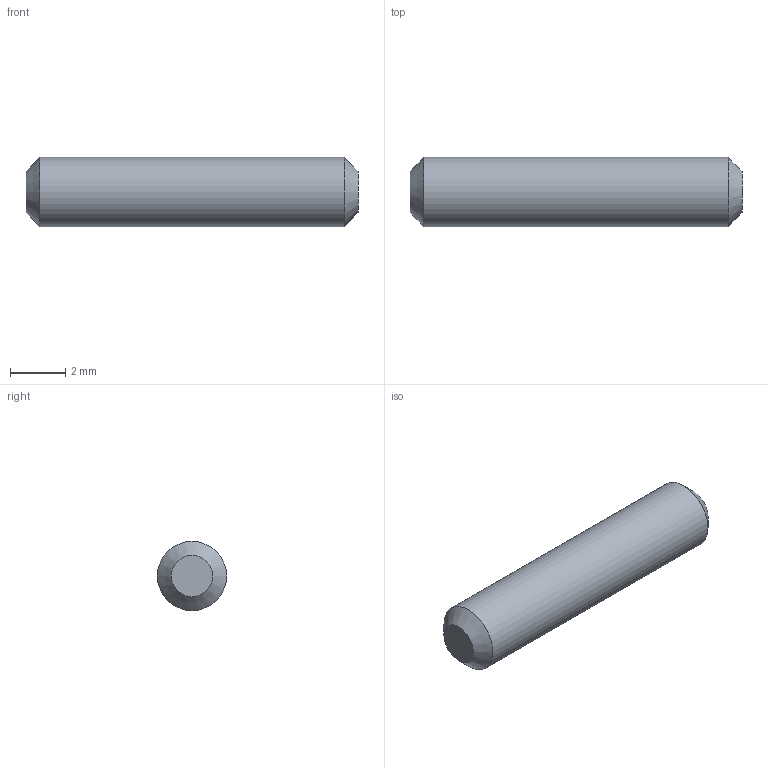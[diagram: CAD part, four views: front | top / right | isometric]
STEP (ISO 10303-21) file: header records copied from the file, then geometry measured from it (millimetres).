
FILE_DESCRIPTION(/* description */ (''),/* implementation_level */ '2;1');
FILE_NAME(/* name */ '',/* time_stamp */ '2025-02-05T13:55:50+09:00',/* author */ ('jhkim'),/* organization */ (''),/* preprocessor_version */ 'ST-DEVELOPER v20',/* originating_system */ 'Autodesk Inventor 2025',/* authorisation */ '');
FILE_SCHEMA (('AUTOMOTIVE_DESIGN { 1 0 10303 214 3 1 1 }'));
Length unit declared in the file: millimetre
Products named in the file (1): 고정핀
Bounding box: 12 x 2.5 x 2.5 mm (x, y, z)
Volume: 57.2 mm3; surface area: 98.8 mm2
Topology: 1 solids, 1 shells, 5 faces, 9 edges, 6 vertices
Faces by surface type: cone 2, plane 2, cylinder 1
Full cylindrical faces by diameter (mm): 2.5 x1
Entity records: 172 total; most frequent: DIRECTION 27, CARTESIAN_POINT 21, ORIENTED_EDGE 18, AXIS2_PLACEMENT_3D 12, EDGE_CURVE 9, CIRCLE 6, VERTEX_POINT 6, FACE_OUTER_BOUND 5
